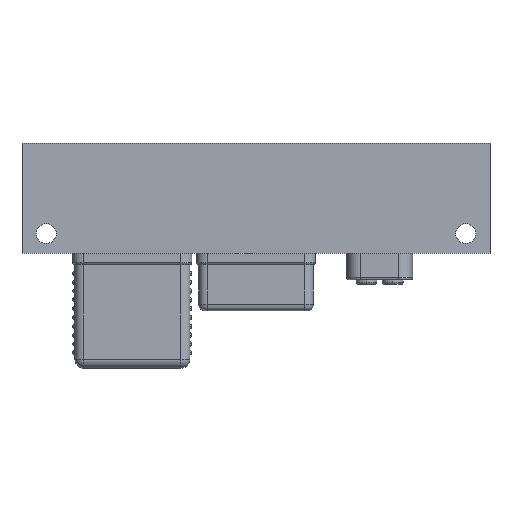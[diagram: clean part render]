
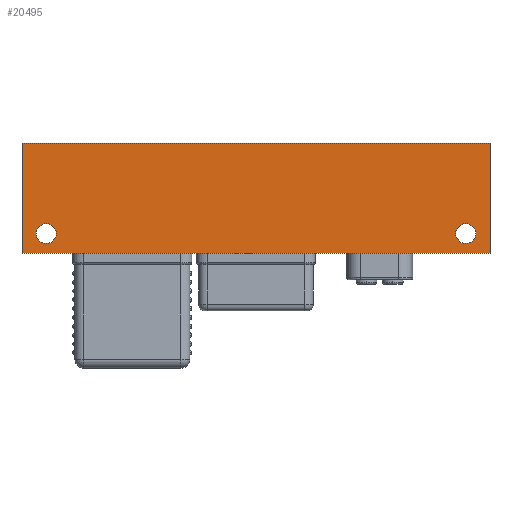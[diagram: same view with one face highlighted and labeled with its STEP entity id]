
A CAD part, front view. The second image highlights one B-rep face of the part: STEP entity #20495.
In plain terms, the highlighted planar face has unit normal (0, -1, 0).
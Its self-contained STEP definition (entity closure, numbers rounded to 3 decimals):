
#41 = LINE ( 'NONE', #55, #5511 ) ;
#55 = CARTESIAN_POINT ( 'NONE',  ( -53., -12.5, 12.5 ) ) ;
#253 = LINE ( 'NONE', #19902, #10479 ) ;
#281 = VERTEX_POINT ( 'NONE', #9927 ) ;
#804 = LINE ( 'NONE', #5971, #17270 ) ;
#823 = AXIS2_PLACEMENT_3D ( 'NONE', #3448, #14636, #3248 ) ;
#1496 = DIRECTION ( 'NONE',  ( 0., 0., 1. ) ) ;
#1511 = DIRECTION ( 'NONE',  ( 0., -1., 0. ) ) ;
#2013 = CARTESIAN_POINT ( 'NONE',  ( -53., -12.5, -12.5 ) ) ;
#2359 = CARTESIAN_POINT ( 'NONE',  ( 53., -12.5, -12.5 ) ) ;
#3248 = DIRECTION ( 'NONE',  ( 0., 0., 1. ) ) ;
#3448 = CARTESIAN_POINT ( 'NONE',  ( -47.5, -12.5, -8. ) ) ;
#3548 = EDGE_CURVE ( 'NONE', #13451, #12904, #15868, .T. ) ;
#4176 = DIRECTION ( 'NONE',  ( 0., 1., 0. ) ) ;
#4385 = DIRECTION ( 'NONE',  ( 0., 0., 1. ) ) ;
#4702 = FACE_BOUND ( 'NONE', #6416, .T. ) ;
#4715 = CARTESIAN_POINT ( 'NONE',  ( 47.5, -12.5, -8. ) ) ;
#4722 = VERTEX_POINT ( 'NONE', #13973 ) ;
#4760 = EDGE_LOOP ( 'NONE', ( #12763, #14526 ) ) ;
#5423 = EDGE_CURVE ( 'NONE', #6593, #17497, #7282, .T. ) ;
#5450 = FACE_BOUND ( 'NONE', #4760, .T. ) ;
#5511 = VECTOR ( 'NONE', #11217, 1000. ) ;
#5830 = DIRECTION ( 'NONE',  ( 0., 0., -1. ) ) ;
#5971 = CARTESIAN_POINT ( 'NONE',  ( -53., -12.5, 12.5 ) ) ;
#5996 = EDGE_CURVE ( 'NONE', #17497, #6593, #13318, .T. ) ;
#6138 = EDGE_CURVE ( 'NONE', #4722, #11401, #41, .T. ) ;
#6287 = EDGE_CURVE ( 'NONE', #12904, #13451, #19031, .T. ) ;
#6416 = EDGE_LOOP ( 'NONE', ( #7946, #12515 ) ) ;
#6593 = VERTEX_POINT ( 'NONE', #15256 ) ;
#7047 = DIRECTION ( 'NONE',  ( 0., 0., -1. ) ) ;
#7211 = EDGE_CURVE ( 'NONE', #11401, #17122, #253, .T. ) ;
#7282 = CIRCLE ( 'NONE', #9506, 2.25 ) ;
#7296 = CARTESIAN_POINT ( 'NONE',  ( 47.5, -12.5, -8. ) ) ;
#7812 = LINE ( 'NONE', #2013, #12834 ) ;
#7946 = ORIENTED_EDGE ( 'NONE', *, *, #6287, .T. ) ;
#9330 = ORIENTED_EDGE ( 'NONE', *, *, #14052, .T. ) ;
#9365 = PLANE ( 'NONE',  #9687 ) ;
#9438 = DIRECTION ( 'NONE',  ( 0., 1., 0. ) ) ;
#9506 = AXIS2_PLACEMENT_3D ( 'NONE', #4715, #1511, #12677 ) ;
#9687 = AXIS2_PLACEMENT_3D ( 'NONE', #14193, #9438, #1496 ) ;
#9927 = CARTESIAN_POINT ( 'NONE',  ( -53., -12.5, -12.5 ) ) ;
#10123 = CARTESIAN_POINT ( 'NONE',  ( -47.5, -12.5, -10.25 ) ) ;
#10479 = VECTOR ( 'NONE', #7047, 1000. ) ;
#11122 = AXIS2_PLACEMENT_3D ( 'NONE', #7296, #18760, #4385 ) ;
#11217 = DIRECTION ( 'NONE',  ( 1., 0., 0. ) ) ;
#11401 = VERTEX_POINT ( 'NONE', #14302 ) ;
#11535 = CARTESIAN_POINT ( 'NONE',  ( 47.5, -12.5, -10.25 ) ) ;
#11710 = DIRECTION ( 'NONE',  ( 1., 0., 0. ) ) ;
#11762 = CARTESIAN_POINT ( 'NONE',  ( -47.5, -12.5, -5.75 ) ) ;
#12285 = EDGE_LOOP ( 'NONE', ( #9330, #20365, #17074, #17873 ) ) ;
#12455 = FACE_OUTER_BOUND ( 'NONE', #12285, .T. ) ;
#12515 = ORIENTED_EDGE ( 'NONE', *, *, #3548, .T. ) ;
#12677 = DIRECTION ( 'NONE',  ( 0., 0., 1. ) ) ;
#12763 = ORIENTED_EDGE ( 'NONE', *, *, #5423, .F. ) ;
#12834 = VECTOR ( 'NONE', #11710, 1000. ) ;
#12904 = VERTEX_POINT ( 'NONE', #11762 ) ;
#13318 = CIRCLE ( 'NONE', #11122, 2.25 ) ;
#13451 = VERTEX_POINT ( 'NONE', #10123 ) ;
#13628 = CARTESIAN_POINT ( 'NONE',  ( -47.5, -12.5, -8. ) ) ;
#13973 = CARTESIAN_POINT ( 'NONE',  ( -53., -12.5, 12.5 ) ) ;
#14052 = EDGE_CURVE ( 'NONE', #281, #17122, #7812, .T. ) ;
#14193 = CARTESIAN_POINT ( 'NONE',  ( -53., -12.5, 12.5 ) ) ;
#14302 = CARTESIAN_POINT ( 'NONE',  ( 53., -12.5, 12.5 ) ) ;
#14526 = ORIENTED_EDGE ( 'NONE', *, *, #5996, .F. ) ;
#14636 = DIRECTION ( 'NONE',  ( 0., 1., 0. ) ) ;
#15256 = CARTESIAN_POINT ( 'NONE',  ( 47.5, -12.5, -5.75 ) ) ;
#15351 = DIRECTION ( 'NONE',  ( 0., 0., 1. ) ) ;
#15868 = CIRCLE ( 'NONE', #18767, 2.25 ) ;
#17074 = ORIENTED_EDGE ( 'NONE', *, *, #6138, .F. ) ;
#17122 = VERTEX_POINT ( 'NONE', #2359 ) ;
#17270 = VECTOR ( 'NONE', #5830, 1000. ) ;
#17497 = VERTEX_POINT ( 'NONE', #11535 ) ;
#17873 = ORIENTED_EDGE ( 'NONE', *, *, #18568, .T. ) ;
#18568 = EDGE_CURVE ( 'NONE', #4722, #281, #804, .T. ) ;
#18760 = DIRECTION ( 'NONE',  ( 0., -1., 0. ) ) ;
#18767 = AXIS2_PLACEMENT_3D ( 'NONE', #13628, #4176, #15351 ) ;
#19031 = CIRCLE ( 'NONE', #823, 2.25 ) ;
#19902 = CARTESIAN_POINT ( 'NONE',  ( 53., -12.5, 12.5 ) ) ;
#20365 = ORIENTED_EDGE ( 'NONE', *, *, #7211, .F. ) ;
#20495 = ADVANCED_FACE ( 'NONE', ( #12455, #4702, #5450 ), #9365, .F. ) ;
